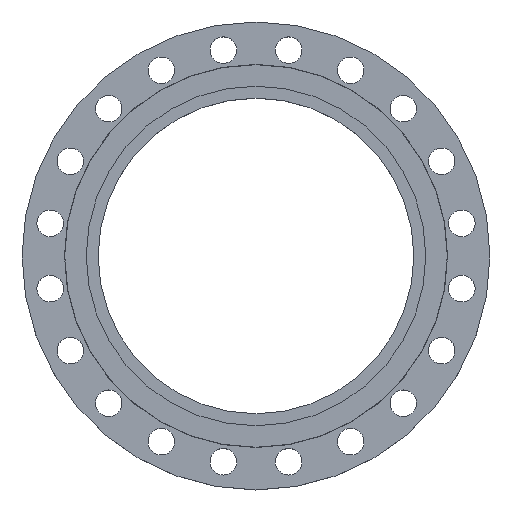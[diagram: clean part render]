
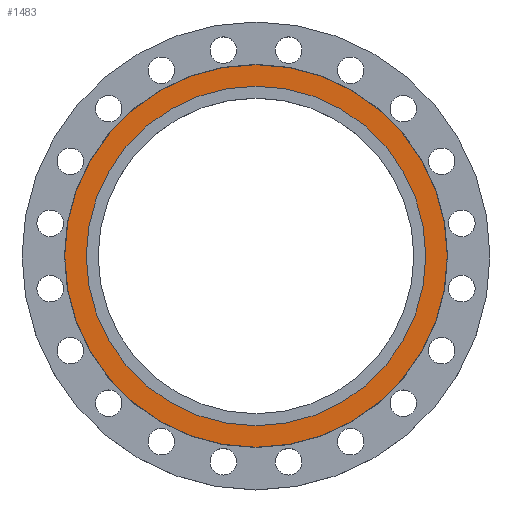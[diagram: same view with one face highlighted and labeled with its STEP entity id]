
A CAD part, top view. The second image highlights one B-rep face of the part: STEP entity #1483.
In plain terms, the highlighted planar face has unit normal (0, 0, 1).
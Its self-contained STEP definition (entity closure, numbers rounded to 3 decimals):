
#6 = DIRECTION ( 'NONE',  ( 0., 0., -1. ) ) ;
#48 = DIRECTION ( 'NONE',  ( -1., 0., 0. ) ) ;
#154 = DIRECTION ( 'NONE',  ( -1., 0., 0. ) ) ;
#156 = DIRECTION ( 'NONE',  ( 0., 0., -1. ) ) ;
#160 = CARTESIAN_POINT ( 'NONE',  ( 0., 0., 0. ) ) ;
#215 = CARTESIAN_POINT ( 'NONE',  ( 248.5, 0., 0. ) ) ;
#236 = CARTESIAN_POINT ( 'NONE',  ( 280., 0., 0. ) ) ;
#265 = EDGE_CURVE ( 'NONE', #1585, #755, #1141, .T. ) ;
#554 = DIRECTION ( 'NONE',  ( -1., 0., 0. ) ) ;
#556 = DIRECTION ( 'NONE',  ( 0., 0., -1. ) ) ;
#557 = CARTESIAN_POINT ( 'NONE',  ( 0., 0., 0. ) ) ;
#579 = DIRECTION ( 'NONE',  ( 0., 0., 1. ) ) ;
#755 = VERTEX_POINT ( 'NONE', #236 ) ;
#772 = VERTEX_POINT ( 'NONE', #215 ) ;
#792 = FACE_BOUND ( 'NONE', #1184, .T. ) ;
#838 = DIRECTION ( 'NONE',  ( -1., 0., 0. ) ) ;
#849 = ORIENTED_EDGE ( 'NONE', *, *, #1898, .T. ) ;
#850 = ORIENTED_EDGE ( 'NONE', *, *, #856, .T. ) ;
#851 = ORIENTED_EDGE ( 'NONE', *, *, #1307, .F. ) ;
#852 = ORIENTED_EDGE ( 'NONE', *, *, #265, .F. ) ;
#856 = EDGE_CURVE ( 'NONE', #1312, #772, #1016, .T. ) ;
#864 = AXIS2_PLACEMENT_3D ( 'NONE', #1935, #579, #1333 ) ;
#890 = CARTESIAN_POINT ( 'NONE',  ( -248.5, 0., 0. ) ) ;
#1016 = CIRCLE ( 'NONE', #1332, 248.5 ) ;
#1109 = CARTESIAN_POINT ( 'NONE',  ( 0., 0., 0. ) ) ;
#1141 = CIRCLE ( 'NONE', #1143, 280. ) ;
#1143 = AXIS2_PLACEMENT_3D ( 'NONE', #557, #556, #554 ) ;
#1184 = EDGE_LOOP ( 'NONE', ( #850, #849 ) ) ;
#1294 = EDGE_LOOP ( 'NONE', ( #852, #851 ) ) ;
#1307 = EDGE_CURVE ( 'NONE', #755, #1585, #1767, .T. ) ;
#1312 = VERTEX_POINT ( 'NONE', #890 ) ;
#1332 = AXIS2_PLACEMENT_3D ( 'NONE', #160, #156, #154 ) ;
#1333 = DIRECTION ( 'NONE',  ( 1., 0., 0. ) ) ;
#1463 = PLANE ( 'NONE',  #864 ) ;
#1483 = ADVANCED_FACE ( 'NONE', ( #1977, #792 ), #1463, .T. ) ;
#1585 = VERTEX_POINT ( 'NONE', #1837 ) ;
#1673 = CARTESIAN_POINT ( 'NONE',  ( 0., 0., 0. ) ) ;
#1724 = DIRECTION ( 'NONE',  ( 0., 0., -1. ) ) ;
#1765 = AXIS2_PLACEMENT_3D ( 'NONE', #1109, #1724, #48 ) ;
#1767 = CIRCLE ( 'NONE', #1765, 280. ) ;
#1820 = CIRCLE ( 'NONE', #1834, 248.5 ) ;
#1834 = AXIS2_PLACEMENT_3D ( 'NONE', #1673, #6, #838 ) ;
#1837 = CARTESIAN_POINT ( 'NONE',  ( -280., 0., 0. ) ) ;
#1898 = EDGE_CURVE ( 'NONE', #772, #1312, #1820, .T. ) ;
#1935 = CARTESIAN_POINT ( 'NONE',  ( 0., 0., 0. ) ) ;
#1977 = FACE_OUTER_BOUND ( 'NONE', #1294, .T. ) ;
